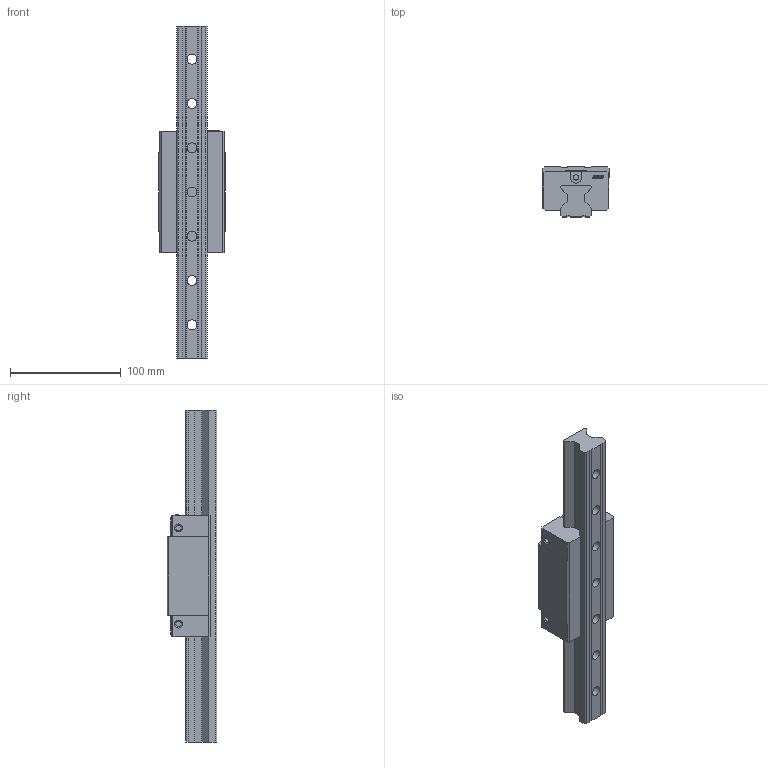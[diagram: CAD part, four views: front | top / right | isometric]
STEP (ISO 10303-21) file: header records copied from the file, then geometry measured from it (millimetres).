
FILE_DESCRIPTION(/* description */ (''),/* implementation_level */ '2;1');
FILE_NAME(/* name */ 'SRH30CA.stp',/* time_stamp */ '2022-01-22T15:14:37+08:00',/* author */ (''),/* organization */ (''),/* preprocessor_version */ 'ST-DEVELOPER v15',/* originating_system */ 'SIEMENS PLM Software NX 8.5',/* authorisation */ '');
FILE_SCHEMA (('CONFIG_CONTROL_DESIGN'));
Length unit declared in the file: millimetre
Products named in the file (1): _model1
Bounding box: 60 x 45 x 300 mm (x, y, z)
Volume: 358489 mm3; surface area: 75910.3 mm2
Topology: 2 solids, 2 shells, 246 faces, 669 edges, 450 vertices
Faces by surface type: plane 119, extrusion 89, cylinder 28, cone 10
Full cylindrical faces by diameter (mm): 5 x6, 6.75 x6, 9 x7, 14 x7
Entity records: 8326 total; most frequent: CARTESIAN_POINT 2425, ORIENTED_EDGE 1254, DIRECTION 936, EDGE_CURVE 627, VECTOR 456, VERTEX_POINT 444, LINE 367, EDGE_LOOP 323
